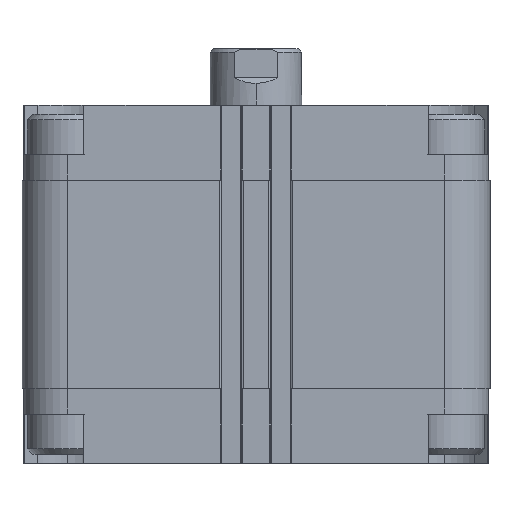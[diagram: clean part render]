
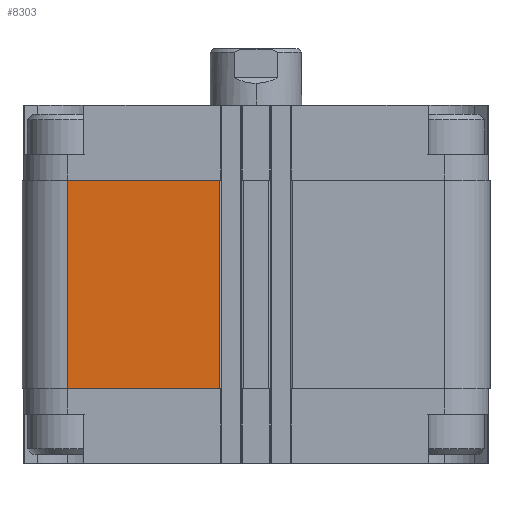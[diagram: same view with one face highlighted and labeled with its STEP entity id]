
A CAD part, front view. The second image highlights one B-rep face of the part: STEP entity #8303.
In plain terms, the highlighted planar face has unit normal (0, -1, 0).
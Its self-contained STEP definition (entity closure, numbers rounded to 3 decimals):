
#2676 = ORIENTED_EDGE ( 'NONE', *, *, #15995, .T. ) ;
#2677 = ORIENTED_EDGE ( 'NONE', *, *, #15996, .F. ) ;
#2678 = ORIENTED_EDGE ( 'NONE', *, *, #15992, .T. ) ;
#2679 = ORIENTED_EDGE ( 'NONE', *, *, #15997, .T. ) ;
#3426 = CARTESIAN_POINT ( 'NONE',  ( -9.975, -64., 77.5 ) ) ;
#3431 = CARTESIAN_POINT ( 'NONE',  ( -51.5, -64., 77.5 ) ) ;
#3432 = CARTESIAN_POINT ( 'NONE',  ( -51.5, -64., 20.5 ) ) ;
#3437 = CARTESIAN_POINT ( 'NONE',  ( -9.975, -64., 20.5 ) ) ;
#5730 = AXIS2_PLACEMENT_3D ( 'NONE', #7100, #7108, #7109 ) ;
#6543 = FACE_OUTER_BOUND ( 'NONE', #7651, .T. ) ;
#7100 = CARTESIAN_POINT ( 'NONE',  ( -51.5, -64., 77.5 ) ) ;
#7105 = PLANE ( 'NONE',  #5730 ) ;
#7108 = DIRECTION ( 'NONE',  ( 0., -1., 0. ) ) ;
#7109 = DIRECTION ( 'NONE',  ( 0., 0., -1. ) ) ;
#7651 = EDGE_LOOP ( 'NONE', ( #2676, #2677, #2678, #2679 ) ) ;
#8303 = ADVANCED_FACE ( 'NONE', ( #6543 ), #7105, .T. ) ;
#8639 = VERTEX_POINT ( 'NONE', #3426 ) ;
#8644 = VERTEX_POINT ( 'NONE', #3431 ) ;
#8645 = VERTEX_POINT ( 'NONE', #3432 ) ;
#8650 = VERTEX_POINT ( 'NONE', #3437 ) ;
#13367 = LINE ( 'NONE', #14021, #13370 ) ;
#13369 = LINE ( 'NONE', #14027, #13374 ) ;
#13370 = VECTOR ( 'NONE', #14022, 1000. ) ;
#13373 = LINE ( 'NONE', #14031, #13376 ) ;
#13374 = VECTOR ( 'NONE', #14023, 1000. ) ;
#13375 = LINE ( 'NONE', #14033, #13378 ) ;
#13376 = VECTOR ( 'NONE', #14032, 1000. ) ;
#13378 = VECTOR ( 'NONE', #14034, 1000. ) ;
#14021 = CARTESIAN_POINT ( 'NONE',  ( -51.5, -64., 49. ) ) ;
#14022 = DIRECTION ( 'NONE',  ( 0., 0., -1. ) ) ;
#14023 = DIRECTION ( 'NONE',  ( 0., 0., 1. ) ) ;
#14027 = CARTESIAN_POINT ( 'NONE',  ( -9.975, -64., 49. ) ) ;
#14031 = CARTESIAN_POINT ( 'NONE',  ( -36.737, -64., 77.5 ) ) ;
#14032 = DIRECTION ( 'NONE',  ( 1., 0., 0. ) ) ;
#14033 = CARTESIAN_POINT ( 'NONE',  ( -36.737, -64., 20.5 ) ) ;
#14034 = DIRECTION ( 'NONE',  ( 1., 0., 0. ) ) ;
#15992 = EDGE_CURVE ( 'NONE', #8644, #8645, #13367, .T. ) ;
#15995 = EDGE_CURVE ( 'NONE', #8650, #8639, #13369, .T. ) ;
#15996 = EDGE_CURVE ( 'NONE', #8644, #8639, #13373, .T. ) ;
#15997 = EDGE_CURVE ( 'NONE', #8645, #8650, #13375, .T. ) ;
